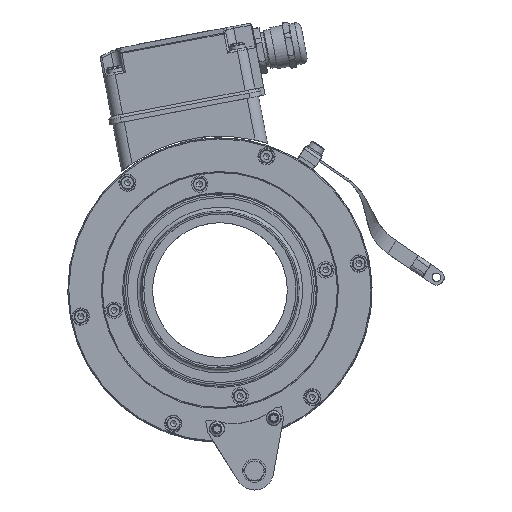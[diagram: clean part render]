
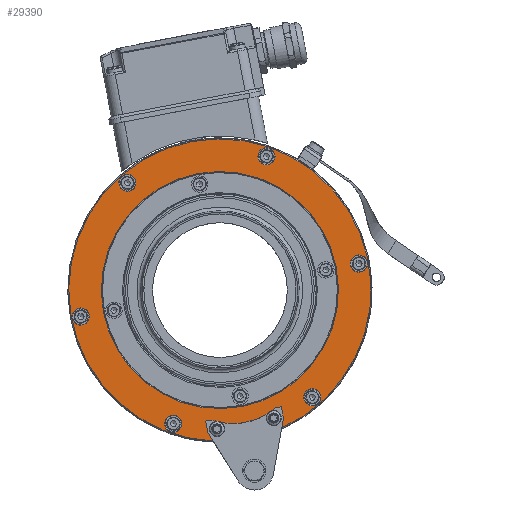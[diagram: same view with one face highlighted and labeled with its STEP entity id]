
A CAD part, left-side view. The second image highlights one B-rep face of the part: STEP entity #29390.
In plain terms, the highlighted planar face has unit normal (-1, 0, 0).
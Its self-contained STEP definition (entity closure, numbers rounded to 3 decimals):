
#1374=FACE_BOUND('',#6664,.T.);
#1375=FACE_BOUND('',#6665,.T.);
#1376=FACE_BOUND('',#6666,.T.);
#1377=FACE_BOUND('',#6667,.T.);
#1378=FACE_BOUND('',#6668,.T.);
#1379=FACE_BOUND('',#6669,.T.);
#1380=FACE_BOUND('',#6670,.T.);
#2879=CIRCLE('',#31883,3.35);
#2880=CIRCLE('',#31892,7.848);
#2881=CIRCLE('',#31893,0.445);
#2882=CIRCLE('',#31894,0.445);
#2883=CIRCLE('',#31895,0.445);
#2884=CIRCLE('',#31896,0.445);
#2885=CIRCLE('',#31897,6.155);
#2886=CIRCLE('',#31898,0.445);
#2887=CIRCLE('',#31899,0.445);
#4575=FACE_OUTER_BOUND('',#6663,.T.);
#6663=EDGE_LOOP('',(#25178,#25179,#25180,#25181,#25182,#25183,#25184,#25185));
#6664=EDGE_LOOP('',(#25186));
#6665=EDGE_LOOP('',(#25187));
#6666=EDGE_LOOP('',(#25188));
#6667=EDGE_LOOP('',(#25189));
#6668=EDGE_LOOP('',(#25190));
#6669=EDGE_LOOP('',(#25191));
#6670=EDGE_LOOP('',(#25192));
#9038=LINE('',#50595,#11368);
#9040=LINE('',#50599,#11370);
#9042=LINE('',#50602,#11372);
#9045=LINE('',#50608,#11375);
#9047=LINE('',#50612,#11377);
#9049=LINE('',#50615,#11379);
#11368=VECTOR('',#38559,0.323);
#11370=VECTOR('',#38563,0.6);
#11372=VECTOR('',#38567,0.52);
#11375=VECTOR('',#38574,0.52);
#11377=VECTOR('',#38578,0.6);
#11379=VECTOR('',#38582,0.323);
#14081=VERTEX_POINT('',#50578);
#14082=VERTEX_POINT('',#50579);
#14085=VERTEX_POINT('',#50588);
#14086=VERTEX_POINT('',#50589);
#14087=VERTEX_POINT('',#50594);
#14088=VERTEX_POINT('',#50598);
#14089=VERTEX_POINT('',#50607);
#14090=VERTEX_POINT('',#50611);
#14091=VERTEX_POINT('',#50618);
#14092=VERTEX_POINT('',#50620);
#14093=VERTEX_POINT('',#50622);
#14094=VERTEX_POINT('',#50624);
#14095=VERTEX_POINT('',#50626);
#14096=VERTEX_POINT('',#50628);
#14097=VERTEX_POINT('',#50630);
#17911=EDGE_CURVE('',#14085,#14086,#2879,.T.);
#17914=EDGE_CURVE('',#14087,#14085,#9038,.T.);
#17916=EDGE_CURVE('',#14088,#14087,#9040,.T.);
#17918=EDGE_CURVE('',#14082,#14088,#9042,.T.);
#17921=EDGE_CURVE('',#14089,#14081,#9045,.T.);
#17923=EDGE_CURVE('',#14090,#14089,#9047,.T.);
#17925=EDGE_CURVE('',#14086,#14090,#9049,.T.);
#17926=EDGE_CURVE('',#14082,#14081,#2880,.T.);
#17927=EDGE_CURVE('',#14091,#14091,#2881,.T.);
#17928=EDGE_CURVE('',#14092,#14092,#2882,.T.);
#17929=EDGE_CURVE('',#14093,#14093,#2883,.T.);
#17930=EDGE_CURVE('',#14094,#14094,#2884,.T.);
#17931=EDGE_CURVE('',#14095,#14095,#2885,.T.);
#17932=EDGE_CURVE('',#14096,#14096,#2886,.T.);
#17933=EDGE_CURVE('',#14097,#14097,#2887,.T.);
#25178=ORIENTED_EDGE('',*,*,#17918,.T.);
#25179=ORIENTED_EDGE('',*,*,#17916,.T.);
#25180=ORIENTED_EDGE('',*,*,#17914,.T.);
#25181=ORIENTED_EDGE('',*,*,#17911,.T.);
#25182=ORIENTED_EDGE('',*,*,#17925,.T.);
#25183=ORIENTED_EDGE('',*,*,#17923,.T.);
#25184=ORIENTED_EDGE('',*,*,#17921,.T.);
#25185=ORIENTED_EDGE('',*,*,#17926,.F.);
#25186=ORIENTED_EDGE('',*,*,#17927,.F.);
#25187=ORIENTED_EDGE('',*,*,#17928,.F.);
#25188=ORIENTED_EDGE('',*,*,#17929,.F.);
#25189=ORIENTED_EDGE('',*,*,#17930,.F.);
#25190=ORIENTED_EDGE('',*,*,#17931,.F.);
#25191=ORIENTED_EDGE('',*,*,#17932,.F.);
#25192=ORIENTED_EDGE('',*,*,#17933,.F.);
#27815=PLANE('',#31891);
#29390=ADVANCED_FACE('',(#4575,#1374,#1375,#1376,#1377,#1378,#1379,#1380),
#27815,.T.);
#31883=AXIS2_PLACEMENT_3D('',#50590,#38553,#38554);
#31891=AXIS2_PLACEMENT_3D('',#50616,#38583,#38584);
#31892=AXIS2_PLACEMENT_3D('',#50617,#38585,#38586);
#31893=AXIS2_PLACEMENT_3D('',#50619,#38587,#38588);
#31894=AXIS2_PLACEMENT_3D('',#50621,#38589,#38590);
#31895=AXIS2_PLACEMENT_3D('',#50623,#38591,#38592);
#31896=AXIS2_PLACEMENT_3D('',#50625,#38593,#38594);
#31897=AXIS2_PLACEMENT_3D('',#50627,#38595,#38596);
#31898=AXIS2_PLACEMENT_3D('',#50629,#38597,#38598);
#31899=AXIS2_PLACEMENT_3D('',#50631,#38599,#38600);
#38553=DIRECTION('center_axis',(-1.,0.,0.));
#38554=DIRECTION('ref_axis',(0.,-0.654,-0.757));
#38559=DIRECTION('',(0.,-0.982,0.187));
#38563=DIRECTION('',(0.,0.187,0.982));
#38567=DIRECTION('',(0.,0.529,0.849));
#38574=DIRECTION('',(0.,0.18,-0.984));
#38578=DIRECTION('',(0.,-0.187,-0.982));
#38582=DIRECTION('',(0.,-0.982,0.187));
#38583=DIRECTION('center_axis',(-1.,0.,0.));
#38584=DIRECTION('ref_axis',(0.,0.187,0.982));
#38585=DIRECTION('center_axis',(1.,0.,0.));
#38586=DIRECTION('ref_axis',(0.,-0.982,0.187));
#38587=DIRECTION('center_axis',(-1.,0.,0.));
#38588=DIRECTION('ref_axis',(0.,0.187,0.982));
#38589=DIRECTION('center_axis',(-1.,0.,0.));
#38590=DIRECTION('ref_axis',(0.,0.944,0.329));
#38591=DIRECTION('center_axis',(-1.,0.,0.));
#38592=DIRECTION('ref_axis',(0.,0.757,-0.653));
#38593=DIRECTION('center_axis',(-1.,0.,0.));
#38594=DIRECTION('ref_axis',(0.,-0.187,-0.982));
#38595=DIRECTION('center_axis',(-1.,0.,0.));
#38596=DIRECTION('ref_axis',(0.,-0.982,0.187));
#38597=DIRECTION('center_axis',(-1.,0.,0.));
#38598=DIRECTION('ref_axis',(0.,-0.944,-0.329));
#38599=DIRECTION('center_axis',(-1.,0.,0.));
#38600=DIRECTION('ref_axis',(0.,-0.757,0.653));
#50578=CARTESIAN_POINT('',(0.,-3.21,-7.161));
#50579=CARTESIAN_POINT('',(0.,0.351,-7.84));
#50588=CARTESIAN_POINT('',(0.,0.421,-6.748));
#50589=CARTESIAN_POINT('',(0.,-2.874,-6.12));
#50590=CARTESIAN_POINT('Origin',(0.,-0.683,
-3.585));
#50594=CARTESIAN_POINT('',(0.,0.738,-6.809));
#50595=CARTESIAN_POINT('',(0.,3.041,-7.248));
#50598=CARTESIAN_POINT('',(0.,0.626,-7.398));
#50599=CARTESIAN_POINT('',(0.,1.351,-3.592));
#50602=CARTESIAN_POINT('',(0.,2.867,-3.801));
#50607=CARTESIAN_POINT('',(0.,-3.303,-6.649));
#50608=CARTESIAN_POINT('',(0.,-3.345,-6.423));
#50611=CARTESIAN_POINT('',(0.,-3.191,-6.06));
#50612=CARTESIAN_POINT('',(0.,-2.634,-3.137));
#50615=CARTESIAN_POINT('',(0.,1.235,-6.903));
#50616=CARTESIAN_POINT('Origin',(0.,6.887,-1.313));
#50617=CARTESIAN_POINT('Origin',(0.,0.,0.));
#50618=CARTESIAN_POINT('',(0.,-7.303,0.939));
#50619=CARTESIAN_POINT('Origin',(0.,-7.22,1.376));
#50620=CARTESIAN_POINT('',(0.,-2.838,6.794));
#50621=CARTESIAN_POINT('Origin',(0.,-2.418,6.941));
#50622=CARTESIAN_POINT('',(0.,4.465,5.855));
#50623=CARTESIAN_POINT('Origin',(0.,4.802,5.565));
#50624=CARTESIAN_POINT('',(0.,7.303,-0.939));
#50625=CARTESIAN_POINT('Origin',(0.,7.22,-1.376));
#50626=CARTESIAN_POINT('',(0.,6.046,-1.153));
#50627=CARTESIAN_POINT('Origin',(0.,0.,0.));
#50628=CARTESIAN_POINT('',(0.,2.838,-6.794));
#50629=CARTESIAN_POINT('Origin',(0.,2.418,-6.941));
#50630=CARTESIAN_POINT('',(0.,-4.465,-5.855));
#50631=CARTESIAN_POINT('Origin',(0.,-4.802,-5.565));
